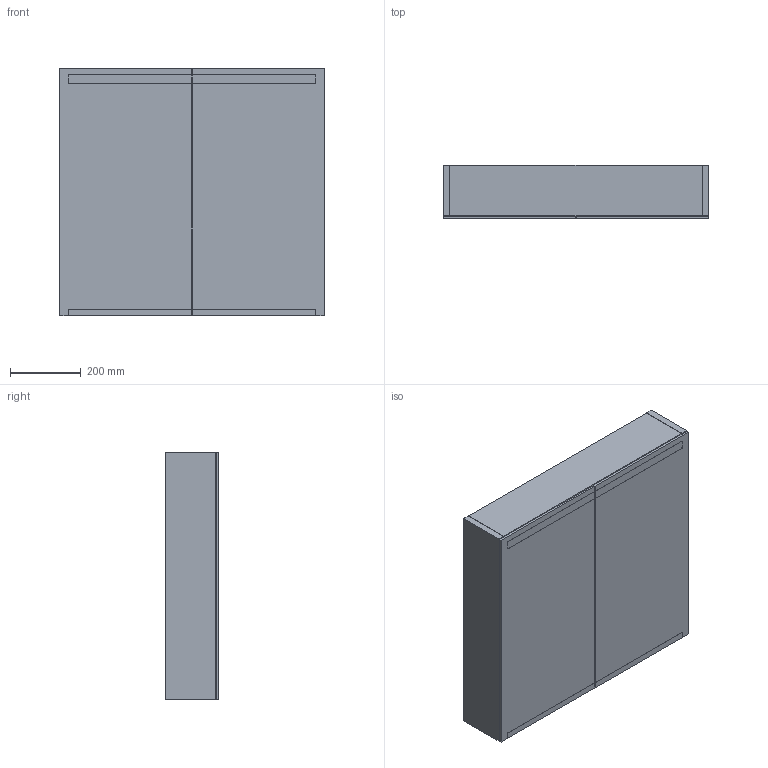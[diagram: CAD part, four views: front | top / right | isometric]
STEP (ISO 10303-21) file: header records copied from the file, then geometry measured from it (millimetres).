
FILE_DESCRIPTION(/* description */ (''),/* implementation_level */ '2;1');
FILE_NAME(/* name */ 'C:\Planerdaten\Export PLA\500.205.00.1\stp\500205.stp',/* time_stamp */ '2020-01-13T15:43:55+01:00',/* author */ ('JANAN'),/* organization */ (''),/* preprocessor_version */ 'ST-DEVELOPER v16.13',/* originating_system */ 'Autodesk Inventor 2018',/* authorisation */ '');
FILE_SCHEMA (('AUTOMOTIVE_DESIGN { 1 0 10303 214 3 1 1 }'));
Length unit declared in the file: millimetre
Products named in the file (1): SpglSchrk Ge+Opt B75 m/Bel 2-Tü
Bounding box: 750 x 150 x 700 mm (x, y, z)
Volume: 15368261 mm3; surface area: 3400068.5 mm2
Topology: 3 solids, 5 shells, 84 faces, 222 edges, 148 vertices
Faces by surface type: plane 78, cylinder 6
Entity records: 2697 total; most frequent: CARTESIAN_POINT 455, ORIENTED_EDGE 444, DIRECTION 404, EDGE_CURVE 222, LINE 210, VECTOR 210, VERTEX_POINT 148, AXIS2_PLACEMENT_3D 97
